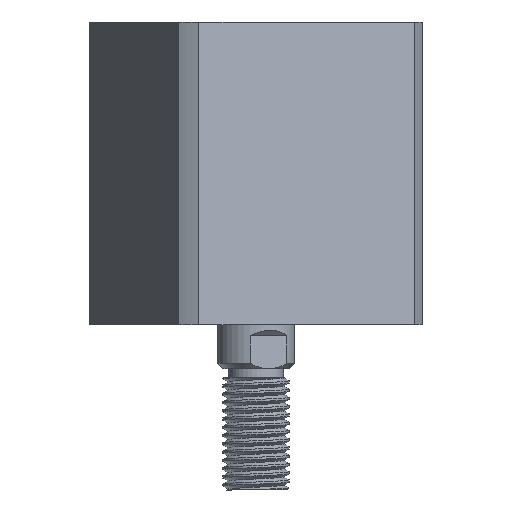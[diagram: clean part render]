
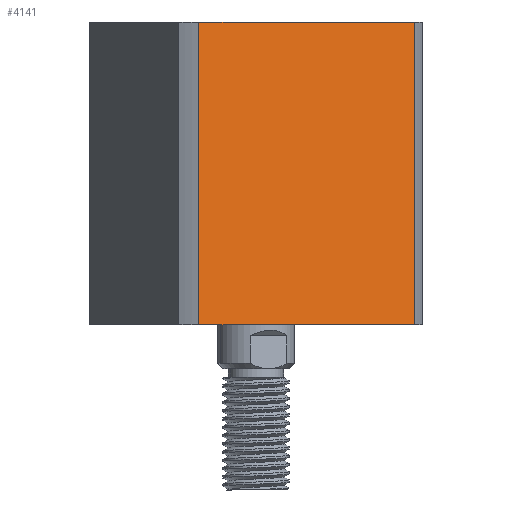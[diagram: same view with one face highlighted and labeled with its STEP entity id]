
A CAD part, front view. The second image highlights one B-rep face of the part: STEP entity #4141.
In plain terms, the highlighted planar face has unit normal (0.383, -0.924, 0) as drawn and (1, 0, 0) by its records, which use the part's own axes.
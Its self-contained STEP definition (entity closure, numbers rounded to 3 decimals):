
#83 = LINE ( 'NONE', #2418, #6224 ) ;
#159 = DIRECTION ( 'NONE',  ( 0., 1., 0. ) ) ;
#297 = ORIENTED_EDGE ( 'NONE', *, *, #1882, .F. ) ;
#749 = CARTESIAN_POINT ( 'NONE',  ( 24., -21.166, 55. ) ) ;
#849 = VERTEX_POINT ( 'NONE', #749 ) ;
#1059 = EDGE_CURVE ( 'NONE', #2716, #849, #83, .T. ) ;
#1166 = VECTOR ( 'NONE', #9676, 1000. ) ;
#1782 = FACE_OUTER_BOUND ( 'NONE', #6554, .T. ) ;
#1787 = LINE ( 'NONE', #5547, #10611 ) ;
#1882 = EDGE_CURVE ( 'NONE', #849, #3903, #9196, .T. ) ;
#2418 = CARTESIAN_POINT ( 'NONE',  ( 24., -21.166, -245. ) ) ;
#2716 = VERTEX_POINT ( 'NONE', #8278 ) ;
#3063 = EDGE_CURVE ( 'NONE', #2716, #3511, #1787, .T. ) ;
#3511 = VERTEX_POINT ( 'NONE', #8575 ) ;
#3903 = VERTEX_POINT ( 'NONE', #6589 ) ;
#4022 = CARTESIAN_POINT ( 'NONE',  ( 24., 24., 55. ) ) ;
#4113 = ORIENTED_EDGE ( 'NONE', *, *, #1059, .F. ) ;
#4141 = ADVANCED_FACE ( 'NONE', ( #1782 ), #8993, .F. ) ;
#4724 = ORIENTED_EDGE ( 'NONE', *, *, #3063, .T. ) ;
#4853 = DIRECTION ( 'NONE',  ( -1., 0., 0. ) ) ;
#5547 = CARTESIAN_POINT ( 'NONE',  ( 24., 24., 0. ) ) ;
#6194 = EDGE_CURVE ( 'NONE', #3903, #3511, #8296, .T. ) ;
#6224 = VECTOR ( 'NONE', #9055, 1000. ) ;
#6554 = EDGE_LOOP ( 'NONE', ( #4113, #4724, #7400, #297 ) ) ;
#6589 = CARTESIAN_POINT ( 'NONE',  ( 24., 21.166, 55. ) ) ;
#6990 = VECTOR ( 'NONE', #159, 1000. ) ;
#7181 = CARTESIAN_POINT ( 'NONE',  ( 24., 21.166, -245. ) ) ;
#7400 = ORIENTED_EDGE ( 'NONE', *, *, #6194, .F. ) ;
#7631 = CARTESIAN_POINT ( 'NONE',  ( 24., 24., 55. ) ) ;
#8063 = DIRECTION ( 'NONE',  ( 0., 1., 0. ) ) ;
#8278 = CARTESIAN_POINT ( 'NONE',  ( 24., -21.166, 0. ) ) ;
#8296 = LINE ( 'NONE', #7181, #1166 ) ;
#8456 = AXIS2_PLACEMENT_3D ( 'NONE', #4022, #4853, #10681 ) ;
#8575 = CARTESIAN_POINT ( 'NONE',  ( 24., 21.166, 0. ) ) ;
#8993 = PLANE ( 'NONE',  #8456 ) ;
#9055 = DIRECTION ( 'NONE',  ( 0., 0., 1. ) ) ;
#9196 = LINE ( 'NONE', #7631, #6990 ) ;
#9676 = DIRECTION ( 'NONE',  ( 0., 0., -1. ) ) ;
#10611 = VECTOR ( 'NONE', #8063, 1000. ) ;
#10681 = DIRECTION ( 'NONE',  ( 0., -1., 0. ) ) ;
